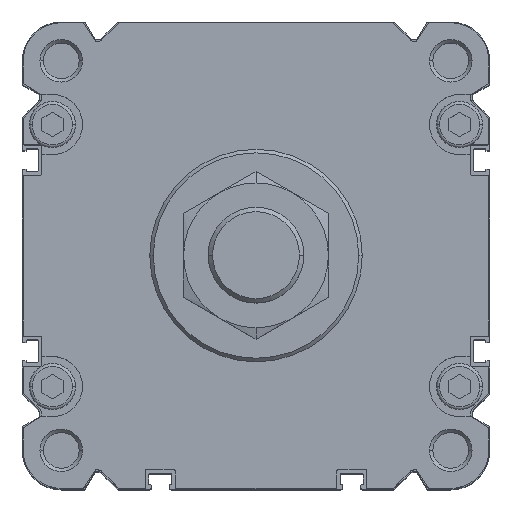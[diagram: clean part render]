
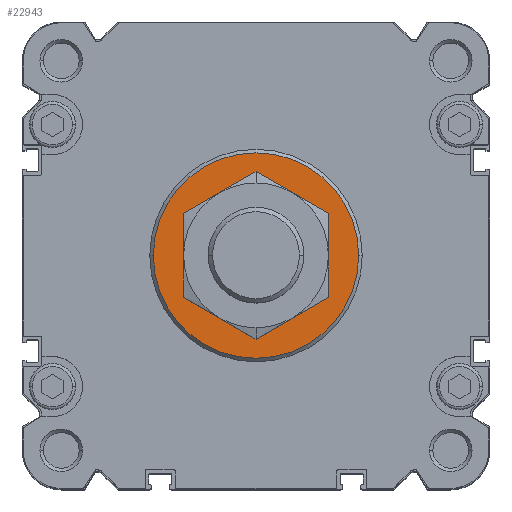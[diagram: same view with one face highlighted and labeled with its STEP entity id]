
A CAD part, top view. The second image highlights one B-rep face of the part: STEP entity #22943.
In plain terms, the highlighted planar face has unit normal (0, 0, 1).
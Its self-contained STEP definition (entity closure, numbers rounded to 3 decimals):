
#434 = EDGE_CURVE ( 'NONE', #22702, #18971, #22372, .T. ) ;
#504 = CARTESIAN_POINT ( 'NONE',  ( 0., -29., 4. ) ) ;
#1810 = EDGE_LOOP ( 'NONE', ( #2756, #11912 ) ) ;
#2611 = CARTESIAN_POINT ( 'NONE',  ( 0., 0., 4. ) ) ;
#2710 = EDGE_CURVE ( 'NONE', #18971, #22702, #22690, .T. ) ;
#2756 = ORIENTED_EDGE ( 'NONE', *, *, #434, .T. ) ;
#3755 = CARTESIAN_POINT ( 'NONE',  ( 0., 0., 4. ) ) ;
#4092 = PLANE ( 'NONE',  #15864 ) ;
#4312 = DIRECTION ( 'NONE',  ( -1., 0., 0. ) ) ;
#4750 = DIRECTION ( 'NONE',  ( 0., 0., -1. ) ) ;
#4901 = AXIS2_PLACEMENT_3D ( 'NONE', #20542, #5924, #12993 ) ;
#5529 = ORIENTED_EDGE ( 'NONE', *, *, #7915, .F. ) ;
#5924 = DIRECTION ( 'NONE',  ( 0., 0., -1. ) ) ;
#6198 = DIRECTION ( 'NONE',  ( 1., 0., 0. ) ) ;
#6631 = CIRCLE ( 'NONE', #8854, 29. ) ;
#7822 = EDGE_LOOP ( 'NONE', ( #18519, #5529 ) ) ;
#7915 = EDGE_CURVE ( 'NONE', #9192, #17646, #12653, .T. ) ;
#8854 = AXIS2_PLACEMENT_3D ( 'NONE', #14937, #4750, #13433 ) ;
#9192 = VERTEX_POINT ( 'NONE', #12966 ) ;
#9404 = FACE_BOUND ( 'NONE', #1810, .T. ) ;
#11309 = CARTESIAN_POINT ( 'NONE',  ( -16., 0., 4. ) ) ;
#11657 = DIRECTION ( 'NONE',  ( 0., 0., -1. ) ) ;
#11754 = CARTESIAN_POINT ( 'NONE',  ( 16., 0., 4. ) ) ;
#11912 = ORIENTED_EDGE ( 'NONE', *, *, #2710, .T. ) ;
#12653 = CIRCLE ( 'NONE', #21906, 29. ) ;
#12966 = CARTESIAN_POINT ( 'NONE',  ( -29., 0., 4. ) ) ;
#12993 = DIRECTION ( 'NONE',  ( 1., 0., 0. ) ) ;
#13433 = DIRECTION ( 'NONE',  ( 1., 0., 0. ) ) ;
#14937 = CARTESIAN_POINT ( 'NONE',  ( 0., 0., 4. ) ) ;
#15669 = EDGE_CURVE ( 'NONE', #17646, #9192, #6631, .T. ) ;
#15811 = DIRECTION ( 'NONE',  ( 1., 0., 0. ) ) ;
#15864 = AXIS2_PLACEMENT_3D ( 'NONE', #504, #18565, #4312 ) ;
#16368 = FACE_OUTER_BOUND ( 'NONE', #7822, .T. ) ;
#16746 = CARTESIAN_POINT ( 'NONE',  ( 29., 0., 4. ) ) ;
#17646 = VERTEX_POINT ( 'NONE', #16746 ) ;
#18519 = ORIENTED_EDGE ( 'NONE', *, *, #15669, .F. ) ;
#18565 = DIRECTION ( 'NONE',  ( 0., 0., 1. ) ) ;
#18971 = VERTEX_POINT ( 'NONE', #11309 ) ;
#19774 = AXIS2_PLACEMENT_3D ( 'NONE', #3755, #21166, #15811 ) ;
#20542 = CARTESIAN_POINT ( 'NONE',  ( 0., 0., 4. ) ) ;
#21166 = DIRECTION ( 'NONE',  ( 0., 0., -1. ) ) ;
#21906 = AXIS2_PLACEMENT_3D ( 'NONE', #2611, #11657, #6198 ) ;
#22372 = CIRCLE ( 'NONE', #19774, 16. ) ;
#22690 = CIRCLE ( 'NONE', #4901, 16. ) ;
#22702 = VERTEX_POINT ( 'NONE', #11754 ) ;
#22943 = ADVANCED_FACE ( 'NONE', ( #16368, #9404 ), #4092, .T. ) ;
